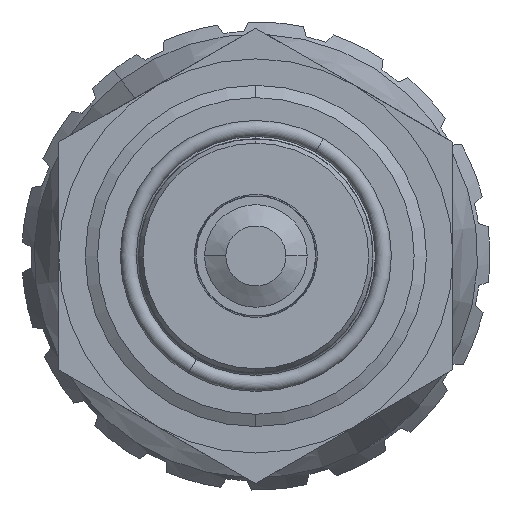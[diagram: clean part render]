
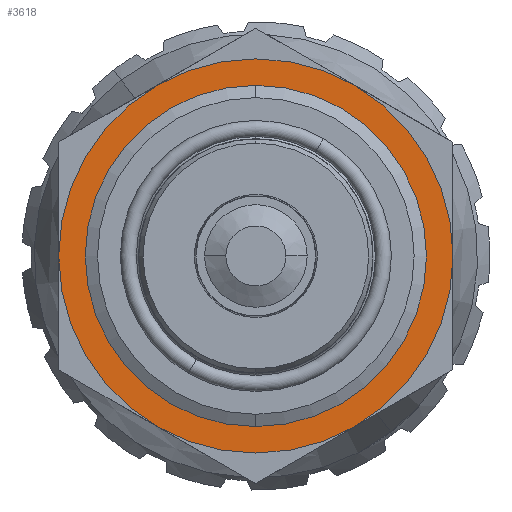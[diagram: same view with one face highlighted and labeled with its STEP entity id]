
A CAD part, front view. The second image highlights one B-rep face of the part: STEP entity #3618.
In plain terms, the highlighted planar face has unit normal (0, -1, 0).
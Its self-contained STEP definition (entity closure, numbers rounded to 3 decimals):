
#3530 = CARTESIAN_POINT ( 'NONE',  ( 0., -11.5, 16. ) ) ;
#3537 = CARTESIAN_POINT ( 'NONE',  ( 0., -11.5, -13.35 ) ) ;
#3542 = CARTESIAN_POINT ( 'NONE',  ( 0., -11.5, 13.35 ) ) ;
#3555 = CARTESIAN_POINT ( 'NONE',  ( 0., -11.5, -16. ) ) ;
#3618 = ADVANCED_FACE ( 'NONE', ( #15455, #15456 ), #14088, .F. ) ;
#5097 = CIRCLE ( 'NONE', #8157, 13.35 ) ;
#6461 = CIRCLE ( 'NONE', #8620, 13.35 ) ;
#6463 = CIRCLE ( 'NONE', #8619, 16. ) ;
#6470 = CIRCLE ( 'NONE', #8617, 16. ) ;
#8157 = AXIS2_PLACEMENT_3D ( 'NONE', #17314, #17315, #17316 ) ;
#8617 = AXIS2_PLACEMENT_3D ( 'NONE', #12462, #12463, #12464 ) ;
#8619 = AXIS2_PLACEMENT_3D ( 'NONE', #20555, #20556, #20557 ) ;
#8620 = AXIS2_PLACEMENT_3D ( 'NONE', #20551, #20552, #20553 ) ;
#10016 = AXIS2_PLACEMENT_3D ( 'NONE', #14102, #14104, #14106 ) ;
#10982 = EDGE_CURVE ( 'NONE', #19349, #19354, #5097, .T. ) ;
#12462 = CARTESIAN_POINT ( 'NONE',  ( 0., -11.5, 0. ) ) ;
#12463 = DIRECTION ( 'NONE',  ( 0., -1., 0. ) ) ;
#12464 = DIRECTION ( 'NONE',  ( 0., 0., -1. ) ) ;
#13292 = ORIENTED_EDGE ( 'NONE', *, *, #10982, .F. ) ;
#13293 = ORIENTED_EDGE ( 'NONE', *, *, #15504, .T. ) ;
#13296 = ORIENTED_EDGE ( 'NONE', *, *, #15503, .F. ) ;
#13595 = ORIENTED_EDGE ( 'NONE', *, *, #15510, .T. ) ;
#14088 = PLANE ( 'NONE',  #10016 ) ;
#14102 = CARTESIAN_POINT ( 'NONE',  ( 0., -11.5, -31.843 ) ) ;
#14104 = DIRECTION ( 'NONE',  ( 0., 1., 0. ) ) ;
#14106 = DIRECTION ( 'NONE',  ( 0., 0., 1. ) ) ;
#15455 = FACE_BOUND ( 'NONE', #18902, .T. ) ;
#15456 = FACE_OUTER_BOUND ( 'NONE', #18886, .T. ) ;
#15503 = EDGE_CURVE ( 'NONE', #19354, #19349, #6461, .T. ) ;
#15504 = EDGE_CURVE ( 'NONE', #19342, #19367, #6463, .T. ) ;
#15510 = EDGE_CURVE ( 'NONE', #19367, #19342, #6470, .T. ) ;
#17314 = CARTESIAN_POINT ( 'NONE',  ( 0., -11.5, 0. ) ) ;
#17315 = DIRECTION ( 'NONE',  ( 0., -1., 0. ) ) ;
#17316 = DIRECTION ( 'NONE',  ( 0., 0., -1. ) ) ;
#18886 = EDGE_LOOP ( 'NONE', ( #13595, #13293 ) ) ;
#18902 = EDGE_LOOP ( 'NONE', ( #13296, #13292 ) ) ;
#19342 = VERTEX_POINT ( 'NONE', #3530 ) ;
#19349 = VERTEX_POINT ( 'NONE', #3537 ) ;
#19354 = VERTEX_POINT ( 'NONE', #3542 ) ;
#19367 = VERTEX_POINT ( 'NONE', #3555 ) ;
#20551 = CARTESIAN_POINT ( 'NONE',  ( 0., -11.5, 0. ) ) ;
#20552 = DIRECTION ( 'NONE',  ( 0., -1., 0. ) ) ;
#20553 = DIRECTION ( 'NONE',  ( 0., 0., -1. ) ) ;
#20555 = CARTESIAN_POINT ( 'NONE',  ( 0., -11.5, 0. ) ) ;
#20556 = DIRECTION ( 'NONE',  ( 0., -1., 0. ) ) ;
#20557 = DIRECTION ( 'NONE',  ( 0., 0., -1. ) ) ;
